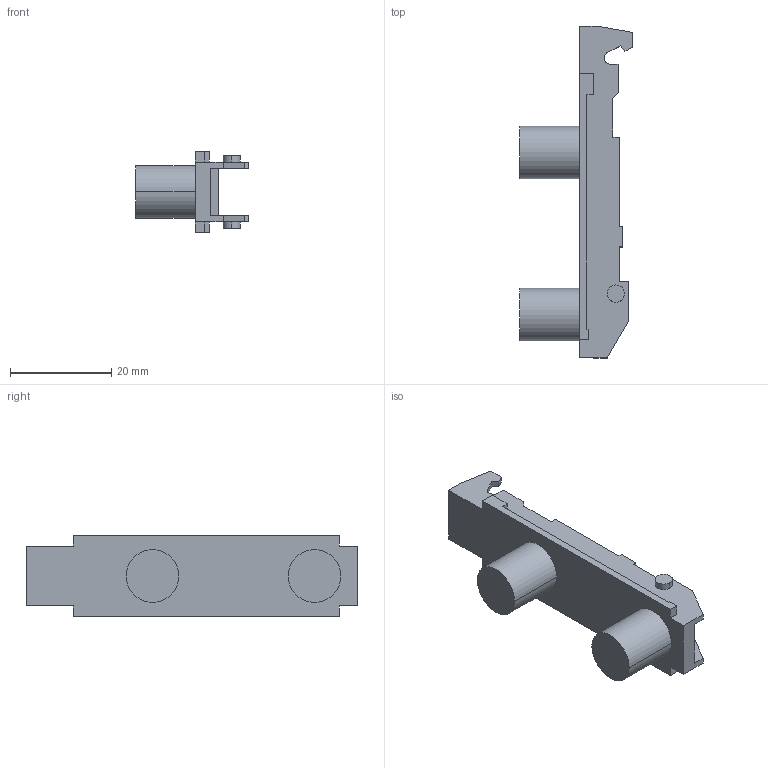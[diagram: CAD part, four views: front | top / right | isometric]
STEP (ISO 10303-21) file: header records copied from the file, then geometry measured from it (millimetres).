
FILE_DESCRIPTION (( 'STEP AP214' ), '1' );
FILE_NAME ('1D_Linearmontageplatte 20_32_10mm Dübel_H00.step', '2010-11-18T10:17:27', ( 'grass' ), ( '' ), 'SwSTEP 2.0', 'SolidWorks 2010', '' );
FILE_SCHEMA (( 'AUTOMOTIVE_DESIGN' ));
Length unit declared in the file: millimetre
Products named in the file (1): 1D_Linearmontageplatte 20_32_10mm Dübel_H00
Bounding box: 22.3 x 65.5 x 16 mm (x, y, z)
Volume: 5569.9 mm3; surface area: 4705.5 mm2
Topology: 1 solids, 1 shells, 84 faces, 228 edges, 152 vertices
Faces by surface type: plane 70, cylinder 14
Entity records: 2654 total; most frequent: CARTESIAN_POINT 465, ORIENTED_EDGE 456, DIRECTION 426, EDGE_CURVE 228, LINE 200, VECTOR 200, VERTEX_POINT 152, AXIS2_PLACEMENT_3D 113
